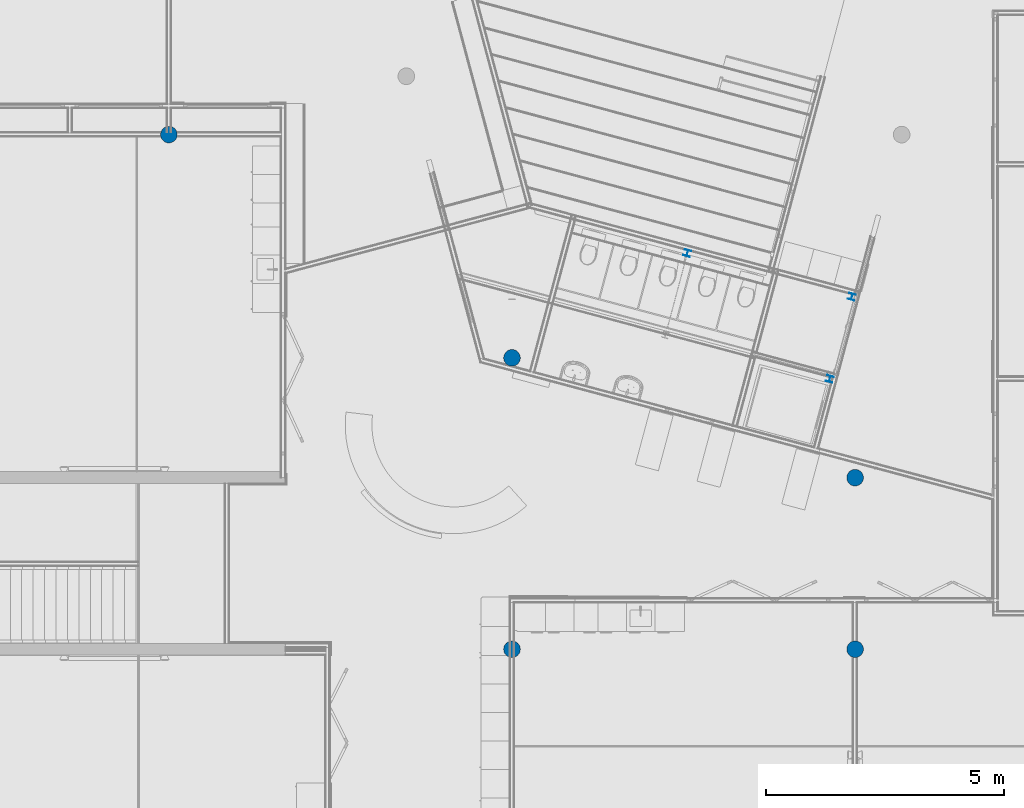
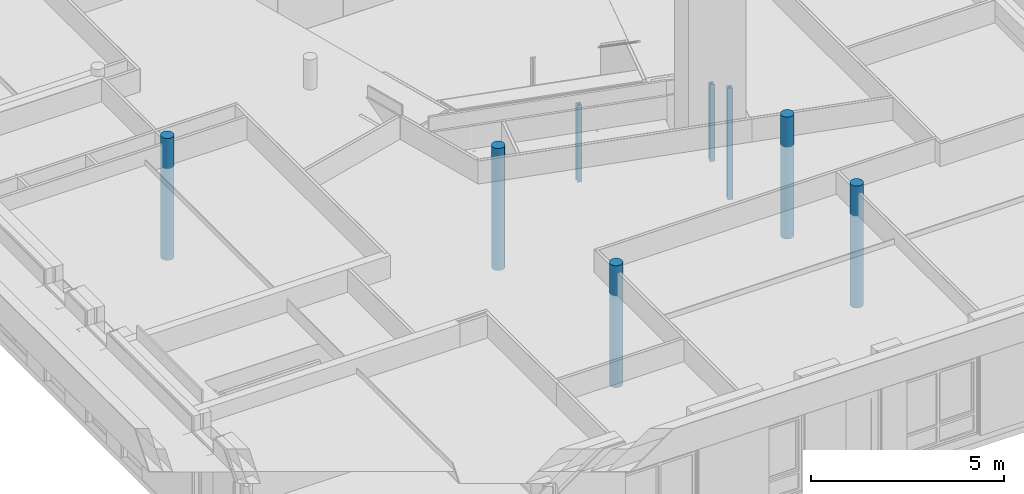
# One storey, part 5 of 167: 8 columns.
"""IFC2X3 building model written with IfcOpenShell, lengths in millimetres."""

from ifc_helpers import new_model, entity, si_unit, converted_unit, derived_unit, money_unit, direction, frame, origin_with_axes, place, context, subcontext, project, spatial, faceted_brep, material, type_object, element, save


model = new_model("IFC2X3")

# Units and contexts
model_context = context("Model", 3, precision=0.01, world=origin_with_axes(), true_north=direction((0.0, 1.0)))
plan_context = context("Plan", 3, precision=0.01, world=origin_with_axes(), true_north=direction((0.0, 1.0)))
body_context = subcontext(model_context, "Body", "Model", "MODEL_VIEW")
ifc_project = project(units=[si_unit("LENGTHUNIT", "METRE", prefix="MILLI"), si_unit("AREAUNIT", "SQUARE_METRE"), si_unit("VOLUMEUNIT", "CUBIC_METRE"), converted_unit("PLANEANGLEUNIT", "DEGREE", entity("IfcPlaneAngleMeasure", 0.0174532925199), si_unit("PLANEANGLEUNIT", "RADIAN"), dimensions=[0, 0, 0, 0, 0, 0, 0]), si_unit("SOLIDANGLEUNIT", "STERADIAN"), money_unit("EUR"), converted_unit("TIMEUNIT", "Year", entity("IfcTimeMeasure", 31556926.0), si_unit("TIMEUNIT", "SECOND"), dimensions=[0, 0, 1, 0, 0, 0, 0]), si_unit("MASSUNIT", "GRAM", prefix="KILO"), si_unit("THERMODYNAMICTEMPERATUREUNIT", "DEGREE_CELSIUS"), si_unit("LUMINOUSINTENSITYUNIT", "LUMEN"), si_unit("ENERGYUNIT", "JOULE", prefix="MEGA"), derived_unit("THERMALCONDUCTANCEUNIT", [(si_unit("POWERUNIT", "WATT"), 1), (si_unit("LENGTHUNIT", "METRE"), -1), (si_unit("THERMODYNAMICTEMPERATUREUNIT", "KELVIN"), -1)]), derived_unit("SPECIFICHEATCAPACITYUNIT", [(si_unit("ENERGYUNIT", "JOULE"), 1), (si_unit("MASSUNIT", "GRAM", prefix="KILO"), -1), (si_unit("THERMODYNAMICTEMPERATUREUNIT", "KELVIN"), -1)]), derived_unit("MASSDENSITYUNIT", [(si_unit("MASSUNIT", "GRAM", prefix="KILO"), 1), (si_unit("VOLUMEUNIT", "CUBIC_METRE"), -1)])], contexts=[model_context, plan_context])

# Site, building, storey
site_placement = place(None, origin_with_axes())
site = spatial("IfcSite", under=ifc_project, at=site_placement, Name="Site", CompositionType="ELEMENT")
building_placement = place(site_placement, origin_with_axes())
building = spatial("IfcBuilding", under=site, at=building_placement, Name="Naam gebouw", CompositionType="ELEMENT")
storey_placement = place(building_placement, origin_with_axes())
storey = spatial("IfcBuildingStorey", under=building, at=storey_placement, Name="Begane grond", CompositionType="ELEMENT", Elevation=0.0)

# Columns
ifc_material_1 = material(Name="Beton gewapend C")
column_type_1 = type_object("IfcColumnType", Name="Beton gewapend C D350", PredefinedType="COLUMN")
column_1_placement = place(storey_placement, frame((21600.0, 7200.0, -100.0), z_axis=(0.0, 0.0, 1.0), x_axis=(1.0, 0.0, 0.0)))
element("IfcColumn", 1, at=column_1_placement, inside=storey, type_object=column_type_1, material=ifc_material_1, Name="28_Kolom_Kolom-x", ObjectType="COLUMN", context=body_context, shape_type="Brep", body=[
    faceted_brep([(-175.0, 0.0, 3860.0), (-175.0, 0.0, 0.0), (-171.637424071, -34.1408063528, 0.0), (-171.637424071, -34.1408063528, 3860.0), (-171.637424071, 34.1408063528, 3860.0), (-171.637424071, 34.1408063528, 0.0), (-161.678918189, 66.9696006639, 0.0), (-145.507182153, 97.2247907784, 0.0), (-123.743686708, 123.743686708, 0.0), (-97.2247907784, 145.507182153, 0.0), (-66.9696006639, 161.678918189, 0.0), (-34.1408063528, 171.637424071, 0.0), (0.0, 175.0, 0.0), (34.1408063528, 171.637424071, 0.0), (66.9696006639, 161.678918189, 0.0), (97.2247907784, 145.507182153, 0.0), (123.743686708, 123.743686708, 0.0), (145.507182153, 97.2247907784, 0.0), (161.678918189, 66.9696006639, 0.0), (171.637424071, 34.1408063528, 0.0), (175.0, 0.0, 0.0), (171.637424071, -34.1408063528, 0.0), (161.678918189, -66.9696006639, 0.0), (145.507182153, -97.2247907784, 0.0), (123.743686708, -123.743686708, 0.0), (97.2247907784, -145.507182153, 0.0), (66.9696006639, -161.678918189, 0.0), (34.1408063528, -171.637424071, 0.0), (0.0, -175.0, 0.0), (-34.1408063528, -171.637424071, 0.0), (-66.9696006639, -161.678918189, 0.0), (-97.2247907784, -145.507182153, 0.0), (-123.743686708, -123.743686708, 0.0), (-145.507182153, -97.2247907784, 0.0), (-161.678918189, -66.9696006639, 0.0), (-161.678918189, -66.9696006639, 3860.0), (-145.507182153, -97.2247907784, 3860.0), (-123.743686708, -123.743686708, 3860.0), (-97.2247907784, -145.507182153, 3860.0), (-66.9696006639, -161.678918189, 3860.0), (-34.1408063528, -171.637424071, 3860.0), (0.0, -175.0, 3860.0), (34.1408063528, -171.637424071, 3860.0), (66.9696006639, -161.678918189, 3860.0), (97.2247907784, -145.507182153, 3860.0), (123.743686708, -123.743686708, 3860.0), (145.507182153, -97.2247907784, 3860.0), (161.678918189, -66.9696006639, 3860.0), (171.637424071, -34.1408063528, 3860.0), (175.0, 0.0, 3860.0), (171.637424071, 34.1408063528, 3860.0), (161.678918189, 66.9696006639, 3860.0), (145.507182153, 97.2247907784, 3860.0), (123.743686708, 123.743686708, 3860.0), (97.2247907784, 145.507182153, 3860.0), (66.9696006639, 161.678918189, 3860.0), (34.1408063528, 171.637424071, 3860.0), (0.0, 175.0, 3860.0), (-34.1408063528, 171.637424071, 3860.0), (-66.9696006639, 161.678918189, 3860.0), (-97.2247907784, 145.507182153, 3860.0), (-123.743686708, 123.743686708, 3860.0), (-145.507182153, 97.2247907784, 3860.0), (-161.678918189, 66.9696006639, 3860.0)], [[[0, 1, 2, 3]], [[4, 5, 1, 0]], [[2, 1, 5, 6, 7, 8, 9, 10, 11, 12, 13, 14, 15, 16, 17, 18, 19, 20, 21, 22, 23, 24, 25, 26, 27, 28, 29, 30, 31, 32, 33, 34]], [[3, 2, 34, 35]], [[4, 0, 3, 35, 36, 37, 38, 39, 40, 41, 42, 43, 44, 45, 46, 47, 48, 49, 50, 51, 52, 53, 54, 55, 56, 57, 58, 59, 60, 61, 62, 63]], [[63, 6, 5, 4]], [[62, 7, 6, 63]], [[61, 8, 7, 62]], [[60, 9, 8, 61]], [[59, 10, 9, 60]], [[58, 11, 10, 59]], [[57, 12, 11, 58]], [[56, 13, 12, 57]], [[55, 14, 13, 56]], [[54, 15, 14, 55]], [[53, 16, 15, 54]], [[52, 17, 16, 53]], [[51, 18, 17, 52]], [[50, 19, 18, 51]], [[49, 20, 19, 50]], [[48, 21, 20, 49]], [[47, 22, 21, 48]], [[46, 23, 22, 47]], [[45, 24, 23, 46]], [[44, 25, 24, 45]], [[43, 26, 25, 44]], [[42, 27, 26, 43]], [[41, 28, 27, 42]], [[40, 29, 28, 41]], [[39, 30, 29, 40]], [[38, 31, 30, 39]], [[37, 32, 31, 38]], [[36, 33, 32, 37]], [[35, 34, 33, 36]]]),
])
column_2_placement = place(storey_placement, frame((21600.0, 10800.0, -100.0), z_axis=(0.0, 0.0, 1.0), x_axis=(1.0, 0.0, 0.0)))
element("IfcColumn", 2, at=column_2_placement, inside=storey, type_object=column_type_1, material=ifc_material_1, Name="28_Kolom_Kolom-x", ObjectType="COLUMN", context=body_context, shape_type="Brep", body=[
    faceted_brep([(-175.0, 0.0, 3860.0), (-175.0, 0.0, 0.0), (-171.637424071, -34.1408063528, 0.0), (-171.637424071, -34.1408063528, 3860.0), (-171.637424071, 34.1408063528, 3860.0), (-171.637424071, 34.1408063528, 0.0), (-161.678918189, 66.9696006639, 0.0), (-145.507182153, 97.2247907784, 0.0), (-123.743686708, 123.743686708, 0.0), (-97.2247907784, 145.507182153, 0.0), (-66.9696006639, 161.678918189, 0.0), (-34.1408063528, 171.637424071, 0.0), (0.0, 175.0, 0.0), (34.1408063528, 171.637424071, 0.0), (66.9696006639, 161.678918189, 0.0), (97.2247907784, 145.507182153, 0.0), (123.743686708, 123.743686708, 0.0), (145.507182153, 97.2247907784, 0.0), (161.678918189, 66.9696006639, 0.0), (171.637424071, 34.1408063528, 0.0), (175.0, 0.0, 0.0), (171.637424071, -34.1408063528, 0.0), (161.678918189, -66.9696006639, 0.0), (145.507182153, -97.2247907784, 0.0), (123.743686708, -123.743686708, 0.0), (97.2247907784, -145.507182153, 0.0), (66.9696006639, -161.678918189, 0.0), (34.1408063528, -171.637424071, 0.0), (0.0, -175.0, 0.0), (-34.1408063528, -171.637424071, 0.0), (-66.9696006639, -161.678918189, 0.0), (-97.2247907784, -145.507182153, 0.0), (-123.743686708, -123.743686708, 0.0), (-145.507182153, -97.2247907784, 0.0), (-161.678918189, -66.9696006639, 0.0), (-161.678918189, -66.9696006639, 3860.0), (-145.507182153, -97.2247907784, 3860.0), (-123.743686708, -123.743686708, 3860.0), (-97.2247907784, -145.507182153, 3860.0), (-66.9696006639, -161.678918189, 3860.0), (-34.1408063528, -171.637424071, 3860.0), (0.0, -175.0, 3860.0), (34.1408063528, -171.637424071, 3860.0), (66.9696006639, -161.678918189, 3860.0), (97.2247907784, -145.507182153, 3860.0), (123.743686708, -123.743686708, 3860.0), (145.507182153, -97.2247907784, 3860.0), (161.678918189, -66.9696006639, 3860.0), (171.637424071, -34.1408063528, 3860.0), (175.0, 0.0, 3860.0), (171.637424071, 34.1408063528, 3860.0), (161.678918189, 66.9696006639, 3860.0), (145.507182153, 97.2247907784, 3860.0), (123.743686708, 123.743686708, 3860.0), (97.2247907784, 145.507182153, 3860.0), (66.9696006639, 161.678918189, 3860.0), (34.1408063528, 171.637424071, 3860.0), (0.0, 175.0, 3860.0), (-34.1408063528, 171.637424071, 3860.0), (-66.9696006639, 161.678918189, 3860.0), (-97.2247907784, 145.507182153, 3860.0), (-123.743686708, 123.743686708, 3860.0), (-145.507182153, 97.2247907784, 3860.0), (-161.678918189, 66.9696006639, 3860.0)], [[[0, 1, 2, 3]], [[4, 5, 1, 0]], [[2, 1, 5, 6, 7, 8, 9, 10, 11, 12, 13, 14, 15, 16, 17, 18, 19, 20, 21, 22, 23, 24, 25, 26, 27, 28, 29, 30, 31, 32, 33, 34]], [[3, 2, 34, 35]], [[4, 0, 3, 35, 36, 37, 38, 39, 40, 41, 42, 43, 44, 45, 46, 47, 48, 49, 50, 51, 52, 53, 54, 55, 56, 57, 58, 59, 60, 61, 62, 63]], [[63, 6, 5, 4]], [[62, 7, 6, 63]], [[61, 8, 7, 62]], [[60, 9, 8, 61]], [[59, 10, 9, 60]], [[58, 11, 10, 59]], [[57, 12, 11, 58]], [[56, 13, 12, 57]], [[55, 14, 13, 56]], [[54, 15, 14, 55]], [[53, 16, 15, 54]], [[52, 17, 16, 53]], [[51, 18, 17, 52]], [[50, 19, 18, 51]], [[49, 20, 19, 50]], [[48, 21, 20, 49]], [[47, 22, 21, 48]], [[46, 23, 22, 47]], [[45, 24, 23, 46]], [[44, 25, 24, 45]], [[43, 26, 25, 44]], [[42, 27, 26, 43]], [[41, 28, 27, 42]], [[40, 29, 28, 41]], [[39, 30, 29, 40]], [[38, 31, 30, 39]], [[37, 32, 31, 38]], [[36, 33, 32, 37]], [[35, 34, 33, 36]]]),
])
column_3_placement = place(storey_placement, frame((14400.0, 7200.0, -100.0), z_axis=(0.0, 0.0, 1.0), x_axis=(1.0, 0.0, 0.0)))
element("IfcColumn", 3, at=column_3_placement, inside=storey, type_object=column_type_1, material=ifc_material_1, Name="28_Kolom_Kolom-x", ObjectType="COLUMN", context=body_context, shape_type="Brep", body=[
    faceted_brep([(-175.0, 0.0, 3860.0), (-175.0, 0.0, 0.0), (-171.637424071, -34.1408063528, 0.0), (-171.637424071, -34.1408063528, 3860.0), (-171.637424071, 34.1408063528, 3860.0), (-171.637424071, 34.1408063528, 0.0), (-161.678918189, 66.9696006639, 0.0), (-145.507182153, 97.2247907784, 0.0), (-123.743686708, 123.743686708, 0.0), (-97.2247907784, 145.507182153, 0.0), (-66.9696006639, 161.678918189, 0.0), (-34.1408063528, 171.637424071, 0.0), (0.0, 175.0, 0.0), (34.1408063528, 171.637424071, 0.0), (66.9696006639, 161.678918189, 0.0), (97.2247907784, 145.507182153, 0.0), (123.743686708, 123.743686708, 0.0), (145.507182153, 97.2247907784, 0.0), (161.678918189, 66.9696006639, 0.0), (171.637424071, 34.1408063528, 0.0), (175.0, 0.0, 0.0), (171.637424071, -34.1408063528, 0.0), (161.678918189, -66.9696006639, 0.0), (145.507182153, -97.2247907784, 0.0), (123.743686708, -123.743686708, 0.0), (97.2247907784, -145.507182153, 0.0), (66.9696006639, -161.678918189, 0.0), (34.1408063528, -171.637424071, 0.0), (0.0, -175.0, 0.0), (-34.1408063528, -171.637424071, 0.0), (-66.9696006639, -161.678918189, 0.0), (-97.2247907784, -145.507182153, 0.0), (-123.743686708, -123.743686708, 0.0), (-145.507182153, -97.2247907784, 0.0), (-161.678918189, -66.9696006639, 0.0), (-161.678918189, -66.9696006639, 3860.0), (-145.507182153, -97.2247907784, 3860.0), (-123.743686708, -123.743686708, 3860.0), (-97.2247907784, -145.507182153, 3860.0), (-66.9696006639, -161.678918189, 3860.0), (-34.1408063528, -171.637424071, 3860.0), (0.0, -175.0, 3860.0), (34.1408063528, -171.637424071, 3860.0), (66.9696006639, -161.678918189, 3860.0), (97.2247907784, -145.507182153, 3860.0), (123.743686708, -123.743686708, 3860.0), (145.507182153, -97.2247907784, 3860.0), (161.678918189, -66.9696006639, 3860.0), (171.637424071, -34.1408063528, 3860.0), (175.0, 0.0, 3860.0), (171.637424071, 34.1408063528, 3860.0), (161.678918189, 66.9696006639, 3860.0), (145.507182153, 97.2247907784, 3860.0), (123.743686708, 123.743686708, 3860.0), (97.2247907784, 145.507182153, 3860.0), (66.9696006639, 161.678918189, 3860.0), (34.1408063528, 171.637424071, 3860.0), (0.0, 175.0, 3860.0), (-34.1408063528, 171.637424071, 3860.0), (-66.9696006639, 161.678918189, 3860.0), (-97.2247907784, 145.507182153, 3860.0), (-123.743686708, 123.743686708, 3860.0), (-145.507182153, 97.2247907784, 3860.0), (-161.678918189, 66.9696006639, 3860.0)], [[[0, 1, 2, 3]], [[4, 5, 1, 0]], [[2, 1, 5, 6, 7, 8, 9, 10, 11, 12, 13, 14, 15, 16, 17, 18, 19, 20, 21, 22, 23, 24, 25, 26, 27, 28, 29, 30, 31, 32, 33, 34]], [[3, 2, 34, 35]], [[4, 0, 3, 35, 36, 37, 38, 39, 40, 41, 42, 43, 44, 45, 46, 47, 48, 49, 50, 51, 52, 53, 54, 55, 56, 57, 58, 59, 60, 61, 62, 63]], [[63, 6, 5, 4]], [[62, 7, 6, 63]], [[61, 8, 7, 62]], [[60, 9, 8, 61]], [[59, 10, 9, 60]], [[58, 11, 10, 59]], [[57, 12, 11, 58]], [[56, 13, 12, 57]], [[55, 14, 13, 56]], [[54, 15, 14, 55]], [[53, 16, 15, 54]], [[52, 17, 16, 53]], [[51, 18, 17, 52]], [[50, 19, 18, 51]], [[49, 20, 19, 50]], [[48, 21, 20, 49]], [[47, 22, 21, 48]], [[46, 23, 22, 47]], [[45, 24, 23, 46]], [[44, 25, 24, 45]], [[43, 26, 25, 44]], [[42, 27, 26, 43]], [[41, 28, 27, 42]], [[40, 29, 28, 41]], [[39, 30, 29, 40]], [[38, 31, 30, 39]], [[37, 32, 31, 38]], [[36, 33, 32, 37]], [[35, 34, 33, 36]]]),
])
column_4_placement = place(storey_placement, frame((14400.0, 13314.7170991, -100.0), z_axis=(0.0, 0.0, 1.0), x_axis=(1.0, 0.0, 0.0)))
element("IfcColumn", 4, at=column_4_placement, inside=storey, type_object=column_type_1, material=ifc_material_1, Name="28_Kolom_Kolom-x", ObjectType="COLUMN", context=body_context, shape_type="Brep", body=[
    faceted_brep([(-175.0, 0.0, 3860.0), (-175.0, 0.0, 0.0), (-171.637424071, -34.1408063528, 0.0), (-171.637424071, -34.1408063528, 3860.0), (-171.637424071, 34.1408063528, 3860.0), (-171.637424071, 34.1408063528, 0.0), (-161.678918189, 66.9696006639, 0.0), (-145.507182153, 97.2247907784, 0.0), (-123.743686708, 123.743686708, 0.0), (-97.2247907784, 145.507182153, 0.0), (-66.9696006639, 161.678918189, 0.0), (-34.1408063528, 171.637424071, 0.0), (0.0, 175.0, 0.0), (34.1408063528, 171.637424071, 0.0), (66.9696006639, 161.678918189, 0.0), (97.2247907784, 145.507182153, 0.0), (123.743686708, 123.743686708, 0.0), (145.507182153, 97.2247907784, 0.0), (161.678918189, 66.9696006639, 0.0), (171.637424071, 34.1408063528, 0.0), (175.0, 0.0, 0.0), (171.637424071, -34.1408063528, 0.0), (161.678918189, -66.9696006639, 0.0), (145.507182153, -97.2247907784, 0.0), (123.743686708, -123.743686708, 0.0), (97.2247907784, -145.507182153, 0.0), (66.9696006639, -161.678918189, 0.0), (34.1408063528, -171.637424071, 0.0), (0.0, -175.0, 0.0), (-34.1408063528, -171.637424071, 0.0), (-66.9696006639, -161.678918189, 0.0), (-97.2247907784, -145.507182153, 0.0), (-123.743686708, -123.743686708, 0.0), (-145.507182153, -97.2247907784, 0.0), (-161.678918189, -66.9696006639, 0.0), (-161.678918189, -66.9696006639, 3860.0), (-145.507182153, -97.2247907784, 3860.0), (-123.743686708, -123.743686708, 3860.0), (-97.2247907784, -145.507182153, 3860.0), (-66.9696006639, -161.678918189, 3860.0), (-34.1408063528, -171.637424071, 3860.0), (0.0, -175.0, 3860.0), (34.1408063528, -171.637424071, 3860.0), (66.9696006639, -161.678918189, 3860.0), (97.2247907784, -145.507182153, 3860.0), (123.743686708, -123.743686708, 3860.0), (145.507182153, -97.2247907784, 3860.0), (161.678918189, -66.9696006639, 3860.0), (171.637424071, -34.1408063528, 3860.0), (175.0, 0.0, 3860.0), (171.637424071, 34.1408063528, 3860.0), (161.678918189, 66.9696006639, 3860.0), (145.507182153, 97.2247907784, 3860.0), (123.743686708, 123.743686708, 3860.0), (97.2247907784, 145.507182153, 3860.0), (66.9696006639, 161.678918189, 3860.0), (34.1408063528, 171.637424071, 3860.0), (0.0, 175.0, 3860.0), (-34.1408063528, 171.637424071, 3860.0), (-66.9696006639, 161.678918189, 3860.0), (-97.2247907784, 145.507182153, 3860.0), (-123.743686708, 123.743686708, 3860.0), (-145.507182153, 97.2247907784, 3860.0), (-161.678918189, 66.9696006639, 3860.0)], [[[0, 1, 2, 3]], [[4, 5, 1, 0]], [[2, 1, 5, 6, 7, 8, 9, 10, 11, 12, 13, 14, 15, 16, 17, 18, 19, 20, 21, 22, 23, 24, 25, 26, 27, 28, 29, 30, 31, 32, 33, 34]], [[3, 2, 34, 35]], [[4, 0, 3, 35, 36, 37, 38, 39, 40, 41, 42, 43, 44, 45, 46, 47, 48, 49, 50, 51, 52, 53, 54, 55, 56, 57, 58, 59, 60, 61, 62, 63]], [[63, 6, 5, 4]], [[62, 7, 6, 63]], [[61, 8, 7, 62]], [[60, 9, 8, 61]], [[59, 10, 9, 60]], [[58, 11, 10, 59]], [[57, 12, 11, 58]], [[56, 13, 12, 57]], [[55, 14, 13, 56]], [[54, 15, 14, 55]], [[53, 16, 15, 54]], [[52, 17, 16, 53]], [[51, 18, 17, 52]], [[50, 19, 18, 51]], [[49, 20, 19, 50]], [[48, 21, 20, 49]], [[47, 22, 21, 48]], [[46, 23, 22, 47]], [[45, 24, 23, 46]], [[44, 25, 24, 45]], [[43, 26, 25, 44]], [[42, 27, 26, 43]], [[41, 28, 27, 42]], [[40, 29, 28, 41]], [[39, 30, 29, 40]], [[38, 31, 30, 39]], [[37, 32, 31, 38]], [[36, 33, 32, 37]], [[35, 34, 33, 36]]]),
])
column_5_placement = place(storey_placement, frame((7200.0, 18000.0, -100.0), z_axis=(0.0, 0.0, 1.0), x_axis=(1.0, 0.0, 0.0)))
element("IfcColumn", 5, at=column_5_placement, inside=storey, type_object=column_type_1, material=ifc_material_1, Name="28_Kolom_Kolom-x", ObjectType="COLUMN", context=body_context, shape_type="Brep", body=[
    faceted_brep([(-175.0, 0.0, 3860.0), (-175.0, 0.0, 0.0), (-171.637424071, -34.1408063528, 0.0), (-171.637424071, -34.1408063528, 3860.0), (-171.637424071, 34.1408063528, 3860.0), (-171.637424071, 34.1408063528, 0.0), (-161.678918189, 66.9696006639, 0.0), (-145.507182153, 97.2247907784, 0.0), (-123.743686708, 123.743686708, 0.0), (-97.2247907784, 145.507182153, 0.0), (-66.9696006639, 161.678918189, 0.0), (-34.1408063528, 171.637424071, 0.0), (0.0, 175.0, 0.0), (34.1408063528, 171.637424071, 0.0), (66.9696006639, 161.678918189, 0.0), (97.2247907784, 145.507182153, 0.0), (123.743686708, 123.743686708, 0.0), (145.507182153, 97.2247907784, 0.0), (161.678918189, 66.9696006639, 0.0), (171.637424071, 34.1408063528, 0.0), (175.0, 0.0, 0.0), (171.637424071, -34.1408063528, 0.0), (161.678918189, -66.9696006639, 0.0), (145.507182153, -97.2247907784, 0.0), (123.743686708, -123.743686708, 0.0), (97.2247907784, -145.507182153, 0.0), (66.9696006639, -161.678918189, 0.0), (34.1408063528, -171.637424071, 0.0), (0.0, -175.0, 0.0), (-34.1408063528, -171.637424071, 0.0), (-66.9696006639, -161.678918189, 0.0), (-97.2247907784, -145.507182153, 0.0), (-123.743686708, -123.743686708, 0.0), (-145.507182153, -97.2247907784, 0.0), (-161.678918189, -66.9696006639, 0.0), (-161.678918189, -66.9696006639, 3860.0), (-145.507182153, -97.2247907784, 3860.0), (-123.743686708, -123.743686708, 3860.0), (-97.2247907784, -145.507182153, 3860.0), (-66.9696006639, -161.678918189, 3860.0), (-34.1408063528, -171.637424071, 3860.0), (0.0, -175.0, 3860.0), (34.1408063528, -171.637424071, 3860.0), (66.9696006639, -161.678918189, 3860.0), (97.2247907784, -145.507182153, 3860.0), (123.743686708, -123.743686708, 3860.0), (145.507182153, -97.2247907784, 3860.0), (161.678918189, -66.9696006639, 3860.0), (171.637424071, -34.1408063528, 3860.0), (175.0, 0.0, 3860.0), (171.637424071, 34.1408063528, 3860.0), (161.678918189, 66.9696006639, 3860.0), (145.507182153, 97.2247907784, 3860.0), (123.743686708, 123.743686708, 3860.0), (97.2247907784, 145.507182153, 3860.0), (66.9696006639, 161.678918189, 3860.0), (34.1408063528, 171.637424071, 3860.0), (0.0, 175.0, 3860.0), (-34.1408063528, 171.637424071, 3860.0), (-66.9696006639, 161.678918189, 3860.0), (-97.2247907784, 145.507182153, 3860.0), (-123.743686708, 123.743686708, 3860.0), (-145.507182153, 97.2247907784, 3860.0), (-161.678918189, 66.9696006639, 3860.0)], [[[0, 1, 2, 3]], [[4, 5, 1, 0]], [[2, 1, 5, 6, 7, 8, 9, 10, 11, 12, 13, 14, 15, 16, 17, 18, 19, 20, 21, 22, 23, 24, 25, 26, 27, 28, 29, 30, 31, 32, 33, 34]], [[3, 2, 34, 35]], [[4, 0, 3, 35, 36, 37, 38, 39, 40, 41, 42, 43, 44, 45, 46, 47, 48, 49, 50, 51, 52, 53, 54, 55, 56, 57, 58, 59, 60, 61, 62, 63]], [[63, 6, 5, 4]], [[62, 7, 6, 63]], [[61, 8, 7, 62]], [[60, 9, 8, 61]], [[59, 10, 9, 60]], [[58, 11, 10, 59]], [[57, 12, 11, 58]], [[56, 13, 12, 57]], [[55, 14, 13, 56]], [[54, 15, 14, 55]], [[53, 16, 15, 54]], [[52, 17, 16, 53]], [[51, 18, 17, 52]], [[50, 19, 18, 51]], [[49, 20, 19, 50]], [[48, 21, 20, 49]], [[47, 22, 21, 48]], [[46, 23, 22, 47]], [[45, 24, 23, 46]], [[44, 25, 24, 45]], [[43, 26, 25, 44]], [[42, 27, 26, 43]], [[41, 28, 27, 42]], [[40, 29, 28, 41]], [[39, 30, 29, 40]], [[38, 31, 30, 39]], [[37, 32, 31, 38]], [[36, 33, 32, 37]], [[35, 34, 33, 36]]]),
])
ifc_material_2 = material(Name="Metaal - Staal C")
column_type_2 = type_object("IfcColumnType", Name="HEA140 140 x 133", PredefinedType="COLUMN")
column_6_placement = place(storey_placement, frame((18081.2984047, 15512.1483802, 0.0), z_axis=(0.0, 0.0, 1.0), x_axis=(0.965925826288, -0.258819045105, 0.0)))
element("IfcColumn", 6, at=column_6_placement, inside=storey, type_object=column_type_2, material=ifc_material_2, Name="28_Kolom_Kolom-x", ObjectType="COLUMN", context=body_context, shape_type="Brep", body=[
    faceted_brep([(-70.0, 66.5, 2437.0), (-70.0, 66.5, 0.0), (-70.0, 58.0, 0.0), (-70.0, 58.0, 2437.0), (70.0, 66.5, 2437.0), (70.0, 66.5, 0.0), (70.0, 58.0, 0.0), (2.75000000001, 58.0, 0.0), (2.75, -58.0, 0.0), (70.0, -58.0, 0.0), (70.0, -66.5, 0.0), (-70.0, -66.5, 0.0), (-70.0, -58.0, 0.0), (-2.75, -58.0, 0.0), (-2.75, 58.0, 0.0), (-2.75, 58.0, 2437.0), (-2.75, -58.0, 2437.0), (-70.0, -58.0, 2437.0), (-70.0, -66.5, 2437.0), (70.0, -66.5, 2437.0), (70.0, -58.0, 2437.0), (2.75, -58.0, 2437.0), (2.75000000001, 58.0, 2437.0), (70.0, 58.0, 2437.0)], [[[0, 1, 2, 3]], [[4, 5, 1, 0]], [[2, 1, 5, 6, 7, 8, 9, 10, 11, 12, 13, 14]], [[3, 2, 14, 15]], [[4, 0, 3, 15, 16, 17, 18, 19, 20, 21, 22, 23]], [[23, 6, 5, 4]], [[22, 7, 6, 23]], [[21, 8, 7, 22]], [[20, 9, 8, 21]], [[19, 10, 9, 20]], [[18, 11, 10, 19]], [[17, 12, 11, 18]], [[16, 13, 12, 17]], [[15, 14, 13, 16]]]),
])
column_7_placement = place(storey_placement, frame((21531.4865068, 14597.9175718, 0.0), z_axis=(0.0, 0.0, 1.0), x_axis=(0.965925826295, -0.258819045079, 0.0)))
element("IfcColumn", 7, at=column_7_placement, inside=storey, type_object=column_type_2, material=ifc_material_2, Name="28_Kolom_Kolom-x", ObjectType="COLUMN", context=body_context, shape_type="Brep", body=[
    faceted_brep([(-70.0, 66.5, 2437.0), (-70.0, 66.5, 0.0), (-70.0, 58.0, 0.0), (-70.0, 58.0, 2437.0), (70.0, 66.5, 2437.0), (70.0, 66.5, 0.0), (70.0, 58.0, 0.0), (2.75, 58.0, 0.0), (2.75, -58.0, 0.0), (70.0, -58.0, 0.0), (70.0, -66.5, 0.0), (-70.0, -66.5, 0.0), (-70.0, -58.0, 0.0), (-2.75, -58.0, 0.0), (-2.75, 58.0, 0.0), (-2.75, 58.0, 2437.0), (-2.75, -58.0, 2437.0), (-70.0, -58.0, 2437.0), (-70.0, -66.5, 2437.0), (70.0, -66.5, 2437.0), (70.0, -58.0, 2437.0), (2.75, -58.0, 2437.0), (2.75, 58.0, 2437.0), (70.0, 58.0, 2437.0)], [[[0, 1, 2, 3]], [[4, 5, 1, 0]], [[2, 1, 5, 6, 7, 8, 9, 10, 11, 12, 13, 14]], [[3, 2, 14, 15]], [[4, 0, 3, 15, 16, 17, 18, 19, 20, 21, 22, 23]], [[23, 6, 5, 4]], [[22, 7, 6, 23]], [[21, 8, 7, 22]], [[20, 9, 8, 21]], [[19, 10, 9, 20]], [[18, 11, 10, 19]], [[17, 12, 11, 18]], [[16, 13, 12, 17]], [[15, 14, 13, 16]]]),
])
column_8_placement = place(storey_placement, frame((21069.2870759, 12872.9658124, 0.0), z_axis=(0.0, 0.0, 1.0), x_axis=(0.965925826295, -0.258819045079, 0.0)))
element("IfcColumn", 8, at=column_8_placement, inside=storey, type_object=column_type_2, material=ifc_material_2, Name="28_Kolom_Kolom-x", ObjectType="COLUMN", context=body_context, shape_type="Brep", body=[
    faceted_brep([(-70.0, 66.5, 3530.0), (-70.0, 66.5, 0.0), (-70.0, 58.0, 0.0), (-70.0, 58.0, 3530.0), (70.0, 66.5, 3530.0), (70.0, 66.5, 0.0), (70.0, 58.0, 0.0), (2.75, 58.0, 0.0), (2.75, -58.0, 0.0), (70.0, -58.0, 0.0), (70.0, -66.5, 0.0), (-70.0, -66.5, 0.0), (-70.0, -58.0, 0.0), (-2.75, -58.0, 0.0), (-2.75, 58.0, 0.0), (-2.75, 58.0, 3530.0), (-2.75, -58.0, 3530.0), (-70.0, -58.0, 3530.0), (-70.0, -66.5, 3530.0), (70.0, -66.5, 3530.0), (70.0, -58.0, 3530.0), (2.75, -58.0, 3530.0), (2.75, 58.0, 3530.0), (70.0, 58.0, 3530.0)], [[[0, 1, 2, 3]], [[4, 5, 1, 0]], [[2, 1, 5, 6, 7, 8, 9, 10, 11, 12, 13, 14]], [[3, 2, 14, 15]], [[4, 0, 3, 15, 16, 17, 18, 19, 20, 21, 22, 23]], [[23, 6, 5, 4]], [[22, 7, 6, 23]], [[21, 8, 7, 22]], [[20, 9, 8, 21]], [[19, 10, 9, 20]], [[18, 11, 10, 19]], [[17, 12, 11, 18]], [[16, 13, 12, 17]], [[15, 14, 13, 16]]]),
])

save(model, "model.ifc")
